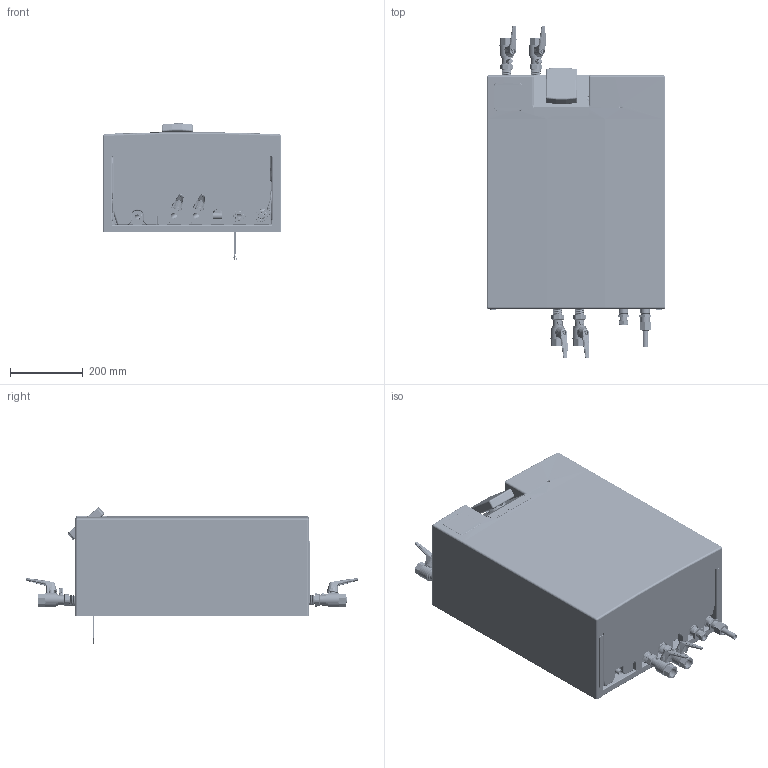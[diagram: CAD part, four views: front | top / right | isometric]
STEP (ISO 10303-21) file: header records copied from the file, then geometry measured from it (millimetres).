
FILE_DESCRIPTION(/* description */ (''),/* implementation_level */ '2;1');
FILE_NAME(/* name */ 'C:\Vault\Designs\HIUs\HSF\TIL Alterations\DATA Unit Standard.stp',/* time_stamp */ '2017-12-08T13:17:53+00:00',/* author */ ('jason.lawrence'),/* organization */ (''),/* preprocessor_version */ 'ST-DEVELOPER v16.1',/* originating_system */ 'Autodesk Inventor 2016',/* authorisation */ '');
FILE_SCHEMA (('CONFIG_CONTROL_DESIGN'));
Length unit declared in the file: millimetre
Products named in the file (216): 51858; 51859; 51861; 51860; 51857; 52110; 51838; 51839; 50189; 51890; 51890-3; 51890-2; 51890-1; 51890_1; 51845; 51840; 42303; 46637; 51878; 3d-stp_WILO_Motor-Yonos-Para-F13-RK-EBox 1; BS 4168 - M6 x 20(1); 3d-stp_WILO-Intec_Pump-housing-PICO-130DN20; Wilo Yonos Para RS15-6-RKA (Flow UP); 51991; 37022; 51476; 51851; 91101; 47713; DRAADSTUK_44434; 51855; 51850; 52112; 51848; 41557; 51476_gemonteerd; 51847; 51819; 41217; 51899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
Assembly tree (352 placements, depth 11):
  2015-06-29 HIU P268 Full option
    51857
      51858
      51859
      51861  x2
      51860
    52110  x6
    51838
    51839
    50189
    59198  x2
    51890_1  x2
      51890
      51890-3
      51890-2
      51890-1
    51845
    51840
    42303
    46637  x2
    51878
    Wilo Yonos Para RS15-6-RKA (Flow UP)
      3d-stp_WILO_Motor-Yonos-Para-F13-RK-EBox 1
      BS 4168 - M6 x 20(1)  x4
      3d-stp_WILO-Intec_Pump-housing-PICO-130DN20
    51851
      51991
      37022  x2
      51476  x2
    91101
    47713
    DRAADSTUK_44434  x2
    51855
    51850
    52112  x2
    51847
      51848
      41557
      37022
      51476_gemonteerd
    51819_1
      51819
      41217
      51899
      33842
    51823_1
      51823
      41217  x2
    51821
      51821.2
      41217  x3
      51821.1
    51813_1  x2
      51992
      41217
      51813
      33841
    51817
      51817.1
      41217  x3
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Bounding box: 490 x 910.45 x 375.95 mm (x, y, z)
Volume: 38378322.5 mm3; surface area: 6331745.4 mm2
Topology: 343 solids, 375 shells, 19659 faces, 50522 edges, 32110 vertices
Faces by surface type: plane 9578, cylinder 4820, bspline 2972, cone 991, torus 976, sphere 322
Full cylindrical faces by diameter (mm): 0.2 x2, 0.457 x1, 0.6 x16, 0.7 x6, 0.8 x3, 0.85 x8, 0.864 x4, 0.9 x4, 1 x6, 1.1 x12, 1.2 x20, 1.25 x15, 1.3 x12, 1.4 x21, 1.5 x23, 1.6 x30, 1.8 x8, 2 x53, 2.2 x4, 2.5 x9, 2.72 x2, 2.74 x1, 2.8 x1, 3 x12, 3.39 x4, 3.398 x2, 3.4 x8, 3.5 x103, 3.57 x4, 3.75 x1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
Entity records: 596936 total; most frequent: CARTESIAN_POINT 256067, ORIENTED_EDGE 69529, DIRECTION 65121, EDGE_CURVE 35360, VERTEX_POINT 23144, AXIS2_PLACEMENT_3D 23076, LINE 18969, VECTOR 18969
